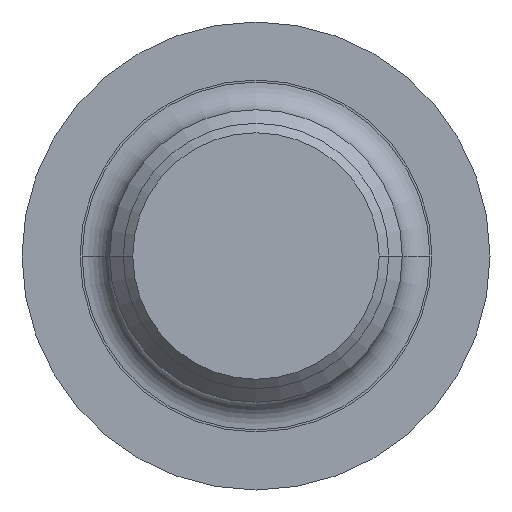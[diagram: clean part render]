
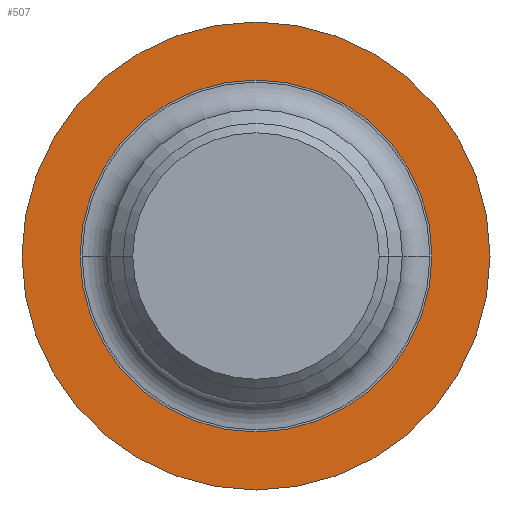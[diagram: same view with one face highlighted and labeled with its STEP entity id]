
A CAD part, front view. The second image highlights one B-rep face of the part: STEP entity #507.
In plain terms, the highlighted planar face has unit normal (0, -1, 0).
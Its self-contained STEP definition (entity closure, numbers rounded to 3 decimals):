
#17 = EDGE_LOOP ( 'NONE', ( #198, #107 ) ) ;
#107 = ORIENTED_EDGE ( 'NONE', *, *, #2021, .T. ) ;
#157 = DIRECTION ( 'NONE',  ( 0., 0., -1. ) ) ;
#178 = FACE_BOUND ( 'NONE', #1015, .T. ) ;
#198 = ORIENTED_EDGE ( 'NONE', *, *, #499, .T. ) ;
#220 = AXIS2_PLACEMENT_3D ( 'NONE', #1178, #466, #1999 ) ;
#233 = DIRECTION ( 'NONE',  ( 0., -1., 0. ) ) ;
#433 = VERTEX_POINT ( 'NONE', #583 ) ;
#466 = DIRECTION ( 'NONE',  ( 0., -1., 0. ) ) ;
#498 = ORIENTED_EDGE ( 'NONE', *, *, #865, .F. ) ;
#499 = EDGE_CURVE ( 'NONE', #433, #647, #1227, .T. ) ;
#507 = ADVANCED_FACE ( 'NONE', ( #178, #1771 ), #1727, .T. ) ;
#583 = CARTESIAN_POINT ( 'NONE',  ( 0., 3.9, -12.7 ) ) ;
#614 = CARTESIAN_POINT ( 'NONE',  ( 0., 3.9, -9.55 ) ) ;
#647 = VERTEX_POINT ( 'NONE', #2195 ) ;
#652 = CIRCLE ( 'NONE', #2024, 9.55 ) ;
#782 = CARTESIAN_POINT ( 'NONE',  ( 0., 3.9, 0. ) ) ;
#808 = DIRECTION ( 'NONE',  ( 0., 0., -1. ) ) ;
#865 = EDGE_CURVE ( 'NONE', #1120, #933, #652, .T. ) ;
#933 = VERTEX_POINT ( 'NONE', #2185 ) ;
#951 = AXIS2_PLACEMENT_3D ( 'NONE', #1836, #1460, #157 ) ;
#1013 = DIRECTION ( 'NONE',  ( 0., -1., 0. ) ) ;
#1015 = EDGE_LOOP ( 'NONE', ( #498, #1797 ) ) ;
#1120 = VERTEX_POINT ( 'NONE', #614 ) ;
#1178 = CARTESIAN_POINT ( 'NONE',  ( 11.125, 3.9, 0. ) ) ;
#1227 = CIRCLE ( 'NONE', #1697, 12.7 ) ;
#1334 = DIRECTION ( 'NONE',  ( 0., -1., 0. ) ) ;
#1460 = DIRECTION ( 'NONE',  ( 0., -1., 0. ) ) ;
#1555 = AXIS2_PLACEMENT_3D ( 'NONE', #782, #1334, #1711 ) ;
#1574 = CARTESIAN_POINT ( 'NONE',  ( 0., 3.9, 0. ) ) ;
#1646 = EDGE_CURVE ( 'NONE', #933, #1120, #2346, .T. ) ;
#1697 = AXIS2_PLACEMENT_3D ( 'NONE', #1574, #233, #808 ) ;
#1711 = DIRECTION ( 'NONE',  ( 0., 0., -1. ) ) ;
#1713 = CIRCLE ( 'NONE', #951, 12.7 ) ;
#1727 = PLANE ( 'NONE',  #220 ) ;
#1771 = FACE_OUTER_BOUND ( 'NONE', #17, .T. ) ;
#1797 = ORIENTED_EDGE ( 'NONE', *, *, #1646, .F. ) ;
#1836 = CARTESIAN_POINT ( 'NONE',  ( 0., 3.9, 0. ) ) ;
#1959 = CARTESIAN_POINT ( 'NONE',  ( 0., 3.9, 0. ) ) ;
#1999 = DIRECTION ( 'NONE',  ( 0., 0., -1. ) ) ;
#2021 = EDGE_CURVE ( 'NONE', #647, #433, #1713, .T. ) ;
#2024 = AXIS2_PLACEMENT_3D ( 'NONE', #1959, #1013, #2319 ) ;
#2185 = CARTESIAN_POINT ( 'NONE',  ( 0., 3.9, 9.55 ) ) ;
#2195 = CARTESIAN_POINT ( 'NONE',  ( 0., 3.9, 12.7 ) ) ;
#2319 = DIRECTION ( 'NONE',  ( 0., 0., -1. ) ) ;
#2346 = CIRCLE ( 'NONE', #1555, 9.55 ) ;
